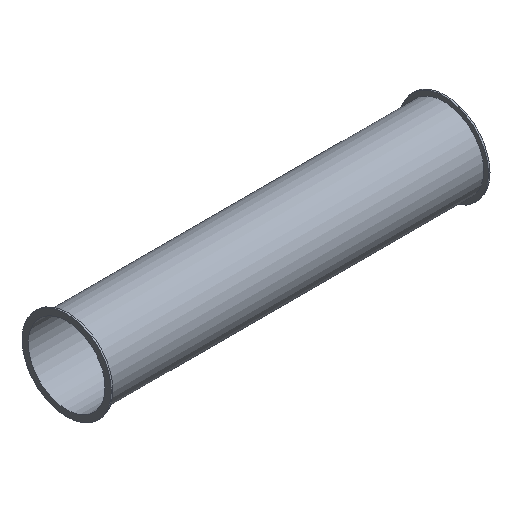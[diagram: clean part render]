
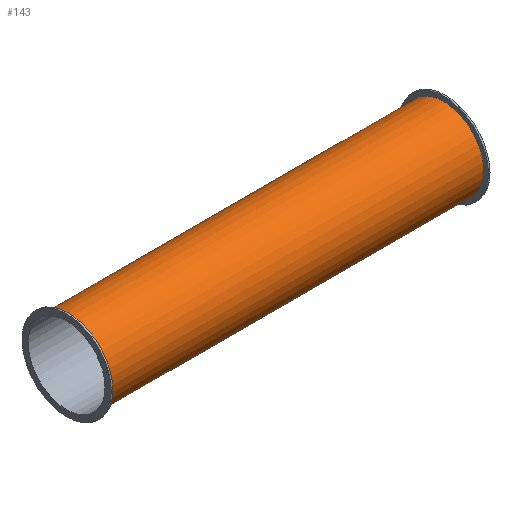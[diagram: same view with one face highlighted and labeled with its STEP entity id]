
A CAD part, isometric view. The second image highlights one B-rep face of the part: STEP entity #143.
In plain terms, the highlighted cylindrical face has radius 51.5 mm (diameter 103 mm), a full revolution.
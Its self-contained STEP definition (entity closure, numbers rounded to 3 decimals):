
#112=CARTESIAN_POINT('',(454.119,2.817,0.0));
#113=VERTEX_POINT('',#112);
#114=CARTESIAN_POINT('',(454.119,54.317,0.0));
#115=DIRECTION('',(-1.0,0.0,0.0));
#116=DIRECTION('',(0.0,-1.0,0.0));
#117=AXIS2_PLACEMENT_3D('',#114,#115,#116);
#118=CIRCLE('',#117,51.5);
#119=EDGE_CURVE('',#113,#113,#118,.T.);
#124=CARTESIAN_POINT('',(212.119,54.317,0.0));
#125=DIRECTION('',(-1.0,0.,0.0));
#126=DIRECTION('',(0.0,-1.0,0.0));
#127=AXIS2_PLACEMENT_3D('',#124,#125,#126);
#128=CYLINDRICAL_SURFACE('',#127,51.5);
#129=CARTESIAN_POINT('',(-29.881,2.817,0.0));
#130=VERTEX_POINT('',#129);
#131=CARTESIAN_POINT('',(-29.881,54.317,0.0));
#132=DIRECTION('',(-1.0,0.0,0.0));
#133=DIRECTION('',(0.0,-1.0,0.0));
#134=AXIS2_PLACEMENT_3D('',#131,#132,#133);
#135=CIRCLE('',#134,51.5);
#136=EDGE_CURVE('',#130,#130,#135,.T.);
#137=ORIENTED_EDGE('',*,*,#136,.F.);
#138=EDGE_LOOP('',(#137));
#139=FACE_OUTER_BOUND('',#138,.T.);
#140=ORIENTED_EDGE('',*,*,#119,.T.);
#141=EDGE_LOOP('',(#140));
#142=FACE_BOUND('',#141,.T.);
#143=ADVANCED_FACE('',(#139,#142),#128,.T.);
